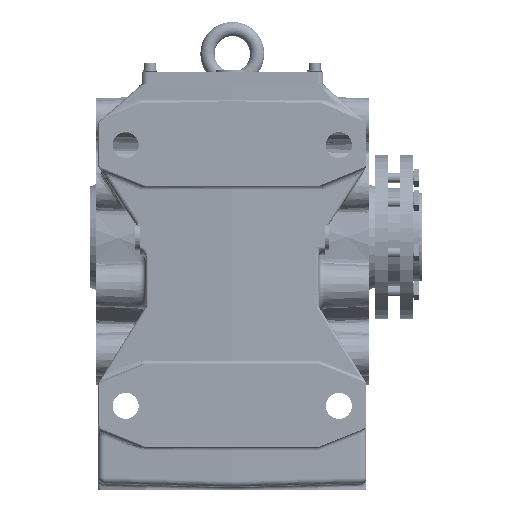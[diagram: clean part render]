
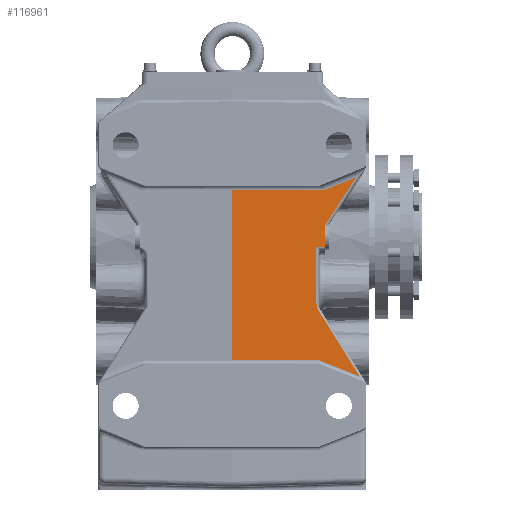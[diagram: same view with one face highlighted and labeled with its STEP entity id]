
A CAD part, left-side view. The second image highlights one B-rep face of the part: STEP entity #116961.
In plain terms, the highlighted planar face has unit normal (-1, -0.026, 0).
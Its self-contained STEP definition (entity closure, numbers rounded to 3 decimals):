
#56533=CARTESIAN_POINT('',(-128.064,-70.565,-46.049));
#56534=VERTEX_POINT('',#56533);
#56559=CARTESIAN_POINT('',(-128.064,-70.565,-8.048));
#56560=VERTEX_POINT('',#56559);
#56570=CARTESIAN_POINT('',(-128.064,-70.565,-8.048));
#56571=DIRECTION('',(0.0,0.0,-1.0));
#56572=VECTOR('',#56571,38.001);
#56573=LINE('',#56570,#56572);
#56574=EDGE_CURVE('',#56560,#56534,#56573,.T.);
#56616=CARTESIAN_POINT('',(-127.177,-104.418,50.274));
#56617=VERTEX_POINT('',#56616);
#56625=CARTESIAN_POINT('',(-127.854,-78.565,10.465));
#56626=VERTEX_POINT('',#56625);
#56627=CARTESIAN_POINT('',(-127.177,-104.418,50.274));
#56628=DIRECTION('',(-0.014,0.545,-0.839));
#56629=VECTOR('',#56628,47.472);
#56630=LINE('',#56627,#56629);
#56631=EDGE_CURVE('',#56617,#56626,#56630,.T.);
#56972=CARTESIAN_POINT('',(-127.85,-78.733,40.));
#56973=VERTEX_POINT('',#56972);
#56987=CARTESIAN_POINT('',(-127.85,-78.733,40.));
#56988=DIRECTION('',(0.024,-0.928,0.371));
#56989=VECTOR('',#56988,27.672);
#56990=LINE('',#56987,#56989);
#56991=EDGE_CURVE('',#56973,#56617,#56990,.T.);
#63116=CARTESIAN_POINT('',(-129.912,0.,40.));
#63117=VERTEX_POINT('',#63116);
#63125=CARTESIAN_POINT('',(-129.912,0.,40.));
#63126=DIRECTION('',(0.026,-1.,0.));
#63127=VECTOR('',#63126,78.76);
#63128=LINE('',#63125,#63127);
#63129=EDGE_CURVE('',#63117,#56973,#63128,.T.);
#76958=CARTESIAN_POINT('',(-127.987,-73.499,-104.));
#76959=VERTEX_POINT('',#76958);
#76967=CARTESIAN_POINT('',(-129.912,0.,-104.));
#76968=VERTEX_POINT('',#76967);
#76969=CARTESIAN_POINT('',(-127.987,-73.499,-104.));
#76970=DIRECTION('',(-0.026,1.,0.));
#76971=VECTOR('',#76970,73.524);
#76972=LINE('',#76969,#76971);
#76973=EDGE_CURVE('',#76959,#76968,#76972,.T.);
#77132=CARTESIAN_POINT('',(-127.103,-107.26,-117.504));
#77133=VERTEX_POINT('',#77132);
#77141=CARTESIAN_POINT('',(-127.103,-107.26,-117.504));
#77142=DIRECTION('',(-0.024,0.928,0.371));
#77143=VECTOR('',#77142,36.372);
#77144=LINE('',#77141,#77143);
#77145=EDGE_CURVE('',#77133,#76959,#77144,.T.);
#77329=CARTESIAN_POINT('',(-128.024,-72.087,-61.215));
#77330=VERTEX_POINT('',#77329);
#77338=CARTESIAN_POINT('',(-128.024,-72.087,-61.215));
#77339=DIRECTION('',(0.014,-0.53,-0.848));
#77340=VECTOR('',#77339,66.381);
#77341=LINE('',#77338,#77340);
#77342=EDGE_CURVE('',#77330,#77133,#77341,.T.);
#77415=CARTESIAN_POINT('',(-128.064,-70.565,-46.049));
#77416=CARTESIAN_POINT('',(-128.064,-70.566,-46.058));
#77417=CARTESIAN_POINT('',(-128.064,-70.566,-46.068));
#77418=CARTESIAN_POINT('',(-128.063,-70.588,-47.1));
#77419=CARTESIAN_POINT('',(-128.062,-70.632,-49.146));
#77420=CARTESIAN_POINT('',(-128.06,-70.692,-51.703));
#77421=CARTESIAN_POINT('',(-128.059,-70.752,-53.749));
#77422=CARTESIAN_POINT('',(-128.057,-70.805,-55.283));
#77423=CARTESIAN_POINT('',(-128.055,-70.883,-56.815));
#77424=CARTESIAN_POINT('',(-128.052,-71.009,-58.347));
#77425=CARTESIAN_POINT('',(-128.043,-71.364,-59.847));
#77426=CARTESIAN_POINT('',(-128.031,-71.815,-60.781));
#77427=CARTESIAN_POINT('',(-128.024,-72.087,-61.215));
#77428=B_SPLINE_CURVE_WITH_KNOTS('',3,(#77415,#77416,#77417,#77418,#77419,#77420,#77421,#77422,#77423,#77424,#77425,#77426,#77427),.UNSPECIFIED.,.F.,.U.,(4,2,1,1,1,1,1,1,1,4),(-0.003,0.0,0.307,0.614,0.767,0.921,1.074,1.228,1.381,1.535),.UNSPECIFIED.);
#77429=EDGE_CURVE('',#56534,#77330,#77428,.T.);
#116892=CARTESIAN_POINT('',(-127.854,-78.565,9.191));
#116893=VERTEX_POINT('',#116892);
#116906=CARTESIAN_POINT('',(-127.854,-78.565,10.465));
#116907=DIRECTION('',(0.0,0.0,-1.0));
#116908=VECTOR('',#116907,1.274);
#116909=LINE('',#116906,#116908);
#116910=EDGE_CURVE('',#56626,#116893,#116909,.T.);
#116915=CARTESIAN_POINT('',(-129.911,-0.025,-208.));
#116916=DIRECTION('',(-1.,-0.026,0.));
#116917=DIRECTION('',(0.0,0.0,1.0));
#116918=AXIS2_PLACEMENT_3D('',#116915,#116916,#116917);
#116919=PLANE('',#116918);
#116920=CARTESIAN_POINT('',(-127.869,-78.,-8.274));
#116921=VERTEX_POINT('',#116920);
#116922=CARTESIAN_POINT('',(-127.869,-78.,9.172));
#116923=VERTEX_POINT('',#116922);
#116924=CARTESIAN_POINT('',(-127.869,-78.,-8.274));
#116925=DIRECTION('',(0.0,0.0,1.0));
#116926=VECTOR('',#116925,17.446);
#116927=LINE('',#116924,#116926);
#116928=EDGE_CURVE('',#116921,#116923,#116927,.T.);
#116929=ORIENTED_EDGE('',*,*,#116928,.T.);
#116930=CARTESIAN_POINT('',(-116.,-531.262,0.));
#116931=DIRECTION('',(1.,0.026,0.));
#116932=DIRECTION('',(-0.026,1.,0.));
#116933=AXIS2_PLACEMENT_3D('',#116930,#116931,#116932);
#116934=ELLIPSE('',#116933,573.023,15.);
#116935=EDGE_CURVE('',#116923,#116893,#116934,.T.);
#116936=ORIENTED_EDGE('',*,*,#116935,.T.);
#116937=ORIENTED_EDGE('',*,*,#116910,.F.);
#116938=ORIENTED_EDGE('',*,*,#56631,.F.);
#116939=ORIENTED_EDGE('',*,*,#56991,.F.);
#116940=ORIENTED_EDGE('',*,*,#63129,.F.);
#116941=CARTESIAN_POINT('',(-129.912,0.,40.));
#116942=DIRECTION('',(0.0,0.0,-1.0));
#116943=VECTOR('',#116942,144.0);
#116944=LINE('',#116941,#116943);
#116945=EDGE_CURVE('',#63117,#76968,#116944,.T.);
#116946=ORIENTED_EDGE('',*,*,#116945,.T.);
#116947=ORIENTED_EDGE('',*,*,#76973,.F.);
#116948=ORIENTED_EDGE('',*,*,#77145,.F.);
#116949=ORIENTED_EDGE('',*,*,#77342,.F.);
#116950=ORIENTED_EDGE('',*,*,#77429,.F.);
#116951=ORIENTED_EDGE('',*,*,#56574,.F.);
#116952=CARTESIAN_POINT('',(-118.499,-435.823,0.));
#116953=DIRECTION('',(1.,0.026,0.));
#116954=DIRECTION('',(-0.026,1.,0.));
#116955=AXIS2_PLACEMENT_3D('',#116952,#116953,#116954);
#116956=ELLIPSE('',#116955,477.519,12.5);
#116957=EDGE_CURVE('',#116921,#56560,#116956,.T.);
#116958=ORIENTED_EDGE('',*,*,#116957,.F.);
#116959=EDGE_LOOP('',(#116929,#116936,#116937,#116938,#116939,#116940,#116946,#116947,#116948,#116949,#116950,#116951,#116958));
#116960=FACE_OUTER_BOUND('',#116959,.T.);
#116961=ADVANCED_FACE('',(#116960),#116919,.T.);
